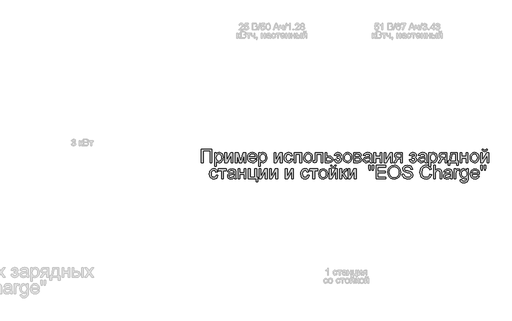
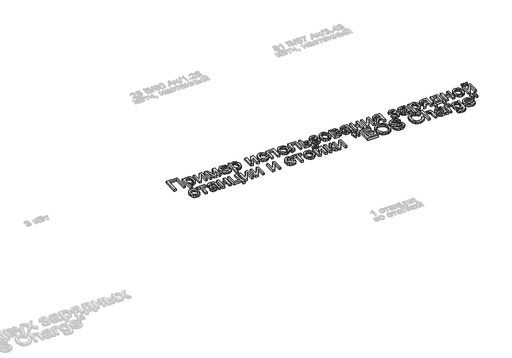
# One storey, part 13 of 26: 1 proxy.
"""IFC4 building model written with IfcOpenShell, lengths in millimetres."""

from ifc_helpers import new_model, si_unit, origin, origin_with_axes, place, context, project, spatial, polyline, outline, extrude, element, save

model = new_model("IFC4")

# Units and contexts
model_context = context("Model", 3, world=origin())
ifc_project = project(units=[si_unit("LENGTHUNIT", "METRE", prefix="MILLI")], contexts=[model_context])

# Site, building, storey
site = spatial("IfcSite", under=ifc_project)
building = spatial("IfcBuilding", under=site)
storey = spatial("IfcBuildingStorey", under=building, Name="Этаж 01", Elevation=0.0)

# Proxy
placement = place(None, origin())
element("IfcBuildingElementProxy", 1, Name="150 мм Arial", ObjectType="150 мм Arial", at=placement, inside=storey, context=model_context, shape_type="SweptSolid", body=[
    extrude(outline(polyline([(13973.0003771, -19691.572075), (14090.7226155, -19691.572075), (14090.7226155, -19842.2565402), (14071.8870574, -19842.2565402), (14071.8870574, -19710.4076332), (13991.8359352, -19710.4076332), (13991.8359352, -19842.2565402), (13973.0003771, -19842.2565402), (13973.0003771, -19691.572075)])), origin_with_axes(), (0.0, 0.0, 1.0), 20.0),
    extrude(outline(polyline([(14121.3303975, -19884.6365461), (14121.3303975, -19731.5976361), (14140.1659557, -19731.5976361), (14140.1659557, -19750.0653122), (14153.1889783, -19734.4487215), (14170.7737377, -19729.2431913), (14183.5116518, -19731.0642072), (14194.6492792, -19736.5272548), (14203.7175704, -19745.3012404), (14210.2474758, -19757.0550701), (14215.5081883, -19786.0809596), (14214.0228648, -19802.1895924), (14209.5668941, -19816.5967711), (14202.2828306, -19828.57133), (14192.3132285, -19837.3821038), (14180.701953, -19842.8037647), (14168.4928693, -19844.610985), (14152.1037264, -19839.7733368), (14140.1659557, -19827.5412604), (14140.1659557, -19884.6365461), (14121.3303975, -19884.6365461)]), holes=[polyline([(14140.1659557, -19787.8100049), (14142.2031022, -19804.6957885), (14148.3145419, -19816.5048006), (14157.3322493, -19823.4577703), (14168.0881991, -19825.7754268), (14179.0188929, -19823.3749968), (14188.2665266, -19816.1737068), (14194.5711043, -19803.9324334), (14196.6726302, -19786.4120534), (14194.621688, -19769.6182403), (14188.4688617, -19757.6436813), (14179.4649498, -19750.4699824), (14168.8607513, -19748.0787495), (14158.2151661, -19750.6217337), (14148.8663649, -19758.2506866), (14142.341058, -19770.7264848), (14140.1659557, -19787.8100049)])]), origin_with_axes(), (0.0, 0.0, 1.0), 20.0),
    extrude(outline(polyline([(14236.6981912, -19731.5976361), (14255.5337494, -19731.5976361), (14255.5337494, -19815.9897658), (14301.8133044, -19731.5976361), (14326.1670925, -19731.5976361), (14326.1670925, -19842.2565402), (14307.3315343, -19842.2565402), (14307.3315343, -19758.3794453), (14261.3462849, -19842.2565402), (14236.6981912, -19842.2565402), (14236.6981912, -19731.5976361)])), origin_with_axes(), (0.0, 0.0, 1.0), 20.0),
    extrude(outline(polyline([(14354.4204297, -19731.5976361), (14386.8308335, -19731.5976361), (14411.8100209, -19820.1836205), (14438.738983, -19731.5976361), (14469.7882234, -19731.5976361), (14469.7882234, -19842.2565402), (14450.9526652, -19842.2565402), (14450.9526652, -19753.155521), (14423.8765504, -19842.2565402), (14399.1548803, -19842.2565402), (14373.2559878, -19748.8880898), (14373.2559878, -19842.2565402), (14354.4204297, -19842.2565402), (14354.4204297, -19731.5976361)])), origin_with_axes(), (0.0, 0.0, 1.0), 20.0),
    extrude(outline(polyline([(14575.5175088, -19809.2943135), (14593.9851849, -19811.6487582), (14587.3311194, -19825.5638947), (14576.7131253, -19835.9657581), (14562.370326, -19842.4496783), (14544.5418448, -19844.610985), (14522.4413339, -19840.8815813), (14505.4359887, -19829.6933701), (14494.5926669, -19811.7729184), (14490.9782263, -19787.8467931), (14494.6294551, -19763.115926), (14505.5831415, -19744.6206587), (14522.3585605, -19733.0875582), (14543.474987, -19729.2431913), (14563.9338245, -19733.0783611), (14580.2815806, -19744.5838705), (14591.0007423, -19763.0423496), (14594.5737961, -19787.7364285), (14594.4634315, -19792.8132001), (14509.8137845, -19792.8132001), (14513.0741386, -19806.9122775), (14520.6479092, -19817.2773528), (14531.578603, -19823.6509083), (14544.9097268, -19825.7754268), (14563.377403, -19821.8390895), (14575.5175088, -19809.2943135)]), holes=[polyline([(14509.8137845, -19773.9776419), (14575.738238, -19773.9776419), (14573.1906552, -19764.0264339), (14568.1966571, -19756.9079173), (14557.2153795, -19750.2860414), (14543.4014106, -19748.0787495), (14530.7048833, -19749.8399845), (14520.2064508, -19755.1236897), (14512.9085917, -19763.3596478), (14509.8137845, -19773.9776419)])]), origin_with_axes(), (0.0, 0.0, 1.0), 20.0),
    extrude(outline(polyline([(14613.4093543, -19884.6365461), (14613.4093543, -19731.5976361), (14632.2449124, -19731.5976361), (14632.2449124, -19750.0653122), (14645.2679351, -19734.4487215), (14662.8526944, -19729.2431913), (14675.5906085, -19731.0642072), (14686.7282359, -19736.5272548), (14695.7965271, -19745.3012404), (14702.3264325, -19757.0550701), (14707.5871451, -19786.0809596), (14706.1018215, -19802.1895924), (14701.6458508, -19816.5967711), (14694.3617873, -19828.57133), (14684.3921853, -19837.3821038), (14672.7809098, -19842.8037647), (14660.5718261, -19844.610985), (14644.1826832, -19839.7733368), (14632.2449124, -19827.5412604), (14632.2449124, -19884.6365461), (14613.4093543, -19884.6365461)]), holes=[polyline([(14632.2449124, -19787.8100049), (14634.282059, -19804.6957885), (14640.3934986, -19816.5048006), (14649.411206, -19823.4577703), (14660.1671559, -19825.7754268), (14671.0978497, -19823.3749968), (14680.3454833, -19816.1737068), (14686.650061, -19803.9324334), (14688.7515869, -19786.4120534), (14686.7006448, -19769.6182403), (14680.5478184, -19757.6436813), (14671.5439066, -19750.4699824), (14660.9397081, -19748.0787495), (14650.2941228, -19750.6217337), (14640.9453216, -19758.2506866), (14634.4200147, -19770.7264848), (14632.2449124, -19787.8100049)])]), origin_with_axes(), (0.0, 0.0, 1.0), 20.0),
    extrude(outline(polyline([(14787.6382672, -19731.5976361), (14806.4738254, -19731.5976361), (14806.4738254, -19815.9897658), (14852.7533804, -19731.5976361), (14877.1071684, -19731.5976361), (14877.1071684, -19842.2565402), (14858.2716103, -19842.2565402), (14858.2716103, -19758.3794453), (14812.2863609, -19842.2565402), (14787.6382672, -19842.2565402), (14787.6382672, -19731.5976361)])), origin_with_axes(), (0.0, 0.0, 1.0), 20.0),
    extrude(outline(polyline([(14975.9938487, -19802.2309791), (14994.8294069, -19804.5854239), (14989.5778914, -19821.3378503), (14979.7094569, -19833.9975894), (14966.1530054, -19841.9576361), (14949.8374389, -19844.610985), (14929.8016657, -19840.9091724), (14914.1344913, -19829.8037347), (14904.0223349, -19811.7821154), (14900.6516161, -19787.3317583), (14902.0909544, -19770.5701349), (14906.4089694, -19756.0433947), (14913.6746388, -19744.3125575), (14923.9569405, -19735.9386436), (14936.2579947, -19730.9170544), (14949.5799215, -19729.2431913), (14965.4954163, -19731.5424538), (14978.2195348, -19738.4402412), (14987.3476068, -19749.5686715), (14992.4749621, -19764.5598628), (14973.639404, -19766.9143076), (14964.9022066, -19752.8060331), (14949.7270743, -19748.0787495), (14937.5547788, -19750.4056031), (14927.8932779, -19757.3861639), (14921.5887002, -19769.3975111), (14919.4871743, -19786.8167235), (14921.5427149, -19804.4704608), (14927.7093369, -19816.5231947), (14937.1960938, -19823.4623688), (14949.2120395, -19825.7754268), (14958.9655109, -19824.33149), (14966.9623458, -19819.9996795), (14972.7794798, -19812.6696308), (14975.9938487, -19802.2309791)])), origin_with_axes(), (0.0, 0.0, 1.0), 20.0),
    extrude(outline(polyline([(15011.3105203, -19731.5976361), (15096.070532, -19731.5976361), (15096.070532, -19842.2565402), (15077.2349738, -19842.2565402), (15077.2349738, -19750.4331942), (15030.1460784, -19750.4331942), (15030.1460784, -19842.2565402), (15011.3105203, -19842.2565402), (15011.3105203, -19731.5976361)])), origin_with_axes(), (0.0, 0.0, 1.0), 20.0),
    extrude(outline(polyline([(15119.6149797, -19786.9270881), (15123.6892728, -19760.2464464), (15135.912152, -19741.4936617), (15151.0137079, -19732.3058089), (15169.095108, -19729.2431913), (15188.8825608, -19732.972595), (15204.687691, -19744.1608062), (15215.0481677, -19761.9249081), (15218.50166, -19785.3819838), (15216.9749497, -19804.41068), (15212.3948188, -19818.8960335), (15204.8946247, -19829.7439539), (15194.6077244, -19837.8603504), (15182.3894436, -19842.9233263), (15169.095108, -19844.610985), (15149.0685319, -19840.8953768), (15133.2817958, -19829.7485524), (15123.0316837, -19811.61197), (15119.6149797, -19786.9270881)]), holes=[polyline([(15138.4505378, -19786.8902999), (15140.6302386, -19803.9370319), (15147.1693411, -19816.0817363), (15157.0101845, -19823.3520042), (15169.095108, -19825.7754268), (15181.1248493, -19823.3382086), (15190.9472985, -19816.026554), (15197.486401, -19803.7209012), (15199.6661018, -19786.3016888), (15197.4726054, -19769.7515975), (15190.8921162, -19757.77244), (15181.0558714, -19750.5021721), (15169.095108, -19748.0787495), (15157.0101845, -19750.4929751), (15147.1693411, -19757.7356518), (15140.6302386, -19769.852765), (15138.4505378, -19786.8902999)])]), origin_with_axes(), (0.0, 0.0, 1.0), 20.0),
    extrude(outline(polyline([(15249.109442, -19731.5976361), (15333.8694536, -19731.5976361), (15333.8694536, -19842.1461756), (15315.0338955, -19842.1461756), (15315.0338955, -19750.4331942), (15267.9450001, -19750.4331942), (15267.9450001, -19803.2242605), (15266.6758072, -19827.5780486), (15259.7044434, -19837.8603504), (15243.22333, -19842.2565402), (15227.919439, -19841.300047), (15227.919439, -19823.4209821), (15236.3439367, -19823.4209821), (15244.8604049, -19822.2621538), (15248.2633134, -19818.5833338), (15249.109442, -19802.1574027), (15249.109442, -19731.5976361)])), origin_with_axes(), (0.0, 0.0, 1.0), 20.0),
    extrude(outline(polyline([(15362.1227909, -19731.5976361), (15380.958349, -19731.5976361), (15380.958349, -19771.6231971), (15402.6633867, -19771.6231971), (15421.4805508, -19773.9822404), (15435.4048843, -19781.0593703), (15444.013323, -19792.2843697), (15446.8828026, -19807.0870215), (15444.4409858, -19820.5652981), (15437.1155356, -19831.9374503), (15424.4190082, -19839.6767677), (15405.8639601, -19842.2565402), (15362.1227909, -19842.2565402), (15362.1227909, -19731.5976361)]), holes=[polyline([(15380.958349, -19823.4209821), (15398.5431084, -19823.4209821), (15421.2598216, -19819.4662506), (15426.3503887, -19814.4032747), (15428.0472444, -19807.1238097), (15423.0256552, -19795.5355268), (15414.9552439, -19791.7279482), (15400.7871886, -19790.4587553), (15380.958349, -19790.4587553), (15380.958349, -19823.4209821)])]), origin_with_axes(), (0.0, 0.0, 1.0), 20.0),
    extrude(outline(polyline([(15496.3261427, -19792.8132001), (15496.3261427, -19773.9776419), (15511.1885753, -19773.2418779), (15518.693368, -19769.3239347), (15522.2250352, -19761.1385603), (15517.4977515, -19751.6288107), (15505.3024634, -19748.0787495), (15492.7025051, -19751.6104166), (15484.5539189, -19762.2054181), (15463.363916, -19759.8509733), (15468.9833134, -19746.4600687), (15477.5273728, -19736.8951368), (15488.996094, -19731.1561777), (15503.389477, -19729.2431913), (15519.1348264, -19731.5746434), (15531.0542031, -19738.5689999), (15538.5589958, -19748.8007179), (15541.0605933, -19760.8442547), (15537.501335, -19772.5429021), (15526.8235601, -19781.5927992), (15539.2763657, -19793.3282349), (15543.4150381, -19810.2140184), (15540.7892804, -19824.0785711), (15532.9120071, -19835.0644472), (15520.3166473, -19842.2243505), (15503.5366298, -19844.610985), (15487.1244943, -19842.403693), (15474.5659227, -19835.7818171), (15465.860915, -19824.7453573), (15461.0094712, -19809.2943135), (15482.1994741, -19806.9398687), (15490.6975482, -19820.8458081), (15505.3392516, -19825.7754268), (15519.0980382, -19821.0481432), (15524.5794799, -19808.9632197), (15521.1765715, -19799.067194), (15513.9292962, -19793.7696933), (15500.0049627, -19792.7028355), (15496.3261427, -19792.8132001)])), origin_with_axes(), (0.0, 0.0, 1.0), 20.0),
    extrude(outline(polyline([(15562.2505963, -19786.9270881), (15566.3248894, -19760.2464464), (15578.5477686, -19741.4936617), (15593.6493245, -19732.3058089), (15611.7307246, -19729.2431913), (15631.5181774, -19732.972595), (15647.3233076, -19744.1608062), (15657.6837843, -19761.9249081), (15661.1372766, -19785.3819838), (15659.6105663, -19804.41068), (15655.0304354, -19818.8960335), (15647.5302413, -19829.7439539), (15637.243341, -19837.8603504), (15625.0250602, -19842.9233263), (15611.7307246, -19844.610985), (15591.7041485, -19840.8953768), (15575.9174124, -19829.7485524), (15565.6673003, -19811.61197), (15562.2505963, -19786.9270881)]), holes=[polyline([(15581.0861544, -19786.8902999), (15583.2658552, -19803.9370319), (15589.8049577, -19816.0817363), (15599.6458011, -19823.3520042), (15611.7307246, -19825.7754268), (15623.7604658, -19823.3382086), (15633.5829151, -19816.026554), (15640.1220176, -19803.7209012), (15642.3017184, -19786.3016888), (15640.108222, -19769.7515975), (15633.5277328, -19757.77244), (15623.691488, -19750.5021721), (15611.7307246, -19748.0787495), (15599.6458011, -19750.4929751), (15589.8049577, -19757.7356518), (15583.2658552, -19769.852765), (15581.0861544, -19786.8902999)])]), origin_with_axes(), (0.0, 0.0, 1.0), 20.0),
    extrude(outline(polyline([(15682.3272795, -19731.5976361), (15723.8243685, -19731.5976361), (15746.5778699, -19734.1176277), (15759.3801634, -19743.3514658), (15764.7328464, -19759.4463031), (15761.4954848, -19772.524508), (15751.746612, -19781.8503166), (15764.4017526, -19792.059042), (15769.4417359, -19809.8093482), (15766.2503596, -19824.1659431), (15758.6627935, -19834.2735009), (15746.6514463, -19840.2607804), (15730.1887271, -19842.2565402), (15682.3272795, -19842.2565402), (15682.3272795, -19731.5976361)]), holes=[polyline([(15701.1628376, -19823.4209821), (15724.2658269, -19823.4209821), (15744.7568541, -19820.0180736), (15748.9966941, -19815.378162), (15750.6061778, -19808.2642439), (15747.3872103, -19799.1959527), (15738.9995008, -19793.9168461), (15722.426417, -19792.8132001), (15701.1628376, -19792.8132001), (15701.1628376, -19823.4209821)]), polyline([(15701.1628376, -19773.9776419), (15719.7776666, -19773.9776419), (15735.1367399, -19773.0211487), (15742.6047444, -19769.195176), (15745.8972882, -19762.2789945), (15744.4533514, -19756.659597), (15740.1215409, -19753.0451564), (15720.3662778, -19750.4331942), (15701.1628376, -19750.4331942), (15701.1628376, -19773.9776419)])]), origin_with_axes(), (0.0, 0.0, 1.0), 20.0),
    extrude(outline(polyline([(15863.6195267, -19828.1298716), (15845.3541856, -19840.8953768), (15825.1758582, -19844.610985), (15809.4351073, -19842.3761019), (15797.8238319, -19835.6714525), (15790.6639285, -19825.4903183), (15788.2772941, -19812.8259806), (15791.8825376, -19797.9267598), (15801.355499, -19787.1110291), (15814.5440685, -19780.9306116), (15830.8412409, -19778.0979203), (15863.5091621, -19771.6231971), (15863.6195267, -19767.4293424), (15862.3227427, -19759.0232388), (15858.4323906, -19753.523403), (15849.7319814, -19749.4399128), (15837.6102696, -19748.0787495), (15818.5539823, -19751.7023871), (15809.467297, -19764.5598628), (15790.6317389, -19762.2054181), (15798.7803251, -19743.8113183), (15815.187862, -19733.0323759), (15840.0382908, -19729.2431913), (15862.8653686, -19732.5909175), (15875.7596325, -19740.9970211), (15881.5353799, -19753.7809204), (15882.4550849, -19770.2620338), (15882.4550849, -19793.6961169), (15883.411578, -19826.4192203), (15887.1639744, -19842.2565402), (15868.3284162, -19842.2565402), (15863.6195267, -19828.1298716)]), holes=[polyline([(15863.6195267, -19790.4587553), (15833.2324739, -19796.2345026), (15817.027272, -19799.2879232), (15809.6880262, -19804.2543301), (15807.1128522, -19811.5016054), (15812.7230527, -19821.6919367), (15829.185772, -19825.7754268), (15848.2420593, -19821.2688724), (15860.5293179, -19810.3611712), (15863.5091621, -19795.7930442), (15863.6195267, -19790.4587553)])]), origin_with_axes(), (0.0, 0.0, 1.0), 20.0),
    extrude(outline(polyline([(15908.3539773, -19731.5976361), (15927.1895355, -19731.5976361), (15927.1895355, -19773.9776419), (15976.6328756, -19773.9776419), (15976.6328756, -19731.5976361), (15995.4684338, -19731.5976361), (15995.4684338, -19842.2565402), (15976.6328756, -19842.2565402), (15976.6328756, -19792.8132001), (15927.1895355, -19792.8132001), (15927.1895355, -19842.2565402), (15908.3539773, -19842.2565402), (15908.3539773, -19731.5976361)])), origin_with_axes(), (0.0, 0.0, 1.0), 20.0),
    extrude(outline(polyline([(16023.721771, -19731.5976361), (16042.5573292, -19731.5976361), (16042.5573292, -19815.9897658), (16088.8368842, -19731.5976361), (16113.1906722, -19731.5976361), (16113.1906722, -19842.2565402), (16094.3551141, -19842.2565402), (16094.3551141, -19758.3794453), (16048.3698647, -19842.2565402), (16023.721771, -19842.2565402), (16023.721771, -19731.5976361)])), origin_with_axes(), (0.0, 0.0, 1.0), 20.0),
    extrude(outline(polyline([(16226.2040212, -19731.5976361), (16226.2040212, -19842.2565402), (16207.368463, -19842.2565402), (16207.368463, -19799.8765344), (16197.1045553, -19799.8765344), (16183.1250395, -19802.2677673), (16169.9916523, -19818.3442105), (16154.9820669, -19842.2565402), (16133.2034528, -19842.2565402), (16152.1125873, -19812.0166402), (16160.4635086, -19801.1641214), (16168.1522423, -19796.3448672), (16155.2763725, -19792.3993328), (16146.2264754, -19784.9037372), (16140.8737924, -19774.9341351), (16139.0895647, -19763.5665815), (16141.5267829, -19750.6723175), (16148.8384376, -19740.4635922), (16160.7670113, -19733.8141251), (16177.0549866, -19731.5976361), (16226.2040212, -19731.5976361)]), holes=[polyline([(16207.368463, -19750.4331942), (16182.5364283, -19750.4331942), (16169.7111423, -19751.5230446), (16162.4316773, -19754.7925959), (16157.9251228, -19765.0013212), (16159.5851903, -19772.1796187), (16164.5653929, -19777.1598212), (16188.0914464, -19781.0409762), (16207.368463, -19781.0409762), (16207.368463, -19750.4331942)])]), origin_with_axes(), (0.0, 0.0, 1.0), 20.0),
    extrude(outline(polyline([(16339.2173701, -19792.8132001), (16339.2173701, -19773.9776419), (16354.0798027, -19773.2418779), (16361.5845954, -19769.3239347), (16365.1162625, -19761.1385603), (16360.3889789, -19751.6288107), (16348.1936908, -19748.0787495), (16335.5937324, -19751.6104166), (16327.4451462, -19762.2054181), (16306.2551433, -19759.8509733), (16311.8745408, -19746.4600687), (16320.4186001, -19736.8951368), (16331.8873213, -19731.1561777), (16346.2807044, -19729.2431913), (16362.0260538, -19731.5746434), (16373.9454304, -19738.5689999), (16381.4502231, -19748.8007179), (16383.9518207, -19760.8442547), (16380.3925624, -19772.5429021), (16369.7147875, -19781.5927992), (16382.167593, -19793.3282349), (16386.3062655, -19810.2140184), (16383.6805077, -19824.0785711), (16375.8032345, -19835.0644472), (16363.2078747, -19842.2243505), (16346.4278572, -19844.610985), (16330.0157217, -19842.403693), (16317.4571501, -19835.7818171), (16308.7521423, -19824.7453573), (16303.9006985, -19809.2943135), (16325.0907015, -19806.9398687), (16333.5887755, -19820.8458081), (16348.230479, -19825.7754268), (16361.9892656, -19821.0481432), (16367.4707073, -19808.9632197), (16364.0677988, -19799.067194), (16356.8205235, -19793.7696933), (16342.89619, -19792.7028355), (16339.2173701, -19792.8132001)])), origin_with_axes(), (0.0, 0.0, 1.0), 20.0),
    extrude(outline(polyline([(16480.4840562, -19828.1298716), (16462.2187152, -19840.8953768), (16442.0403877, -19844.610985), (16426.2996369, -19842.3761019), (16414.6883614, -19835.6714525), (16407.528458, -19825.4903183), (16405.1418236, -19812.8259806), (16408.7470672, -19797.9267598), (16418.2200285, -19787.1110291), (16431.4085981, -19780.9306116), (16447.7057704, -19778.0979203), (16480.3736916, -19771.6231971), (16480.4840562, -19767.4293424), (16479.1872722, -19759.0232388), (16475.2969201, -19753.523403), (16466.5965109, -19749.4399128), (16454.4747992, -19748.0787495), (16435.4185118, -19751.7023871), (16426.3318265, -19764.5598628), (16407.4962684, -19762.2054181), (16415.6448546, -19743.8113183), (16432.0523916, -19733.0323759), (16456.9028203, -19729.2431913), (16479.7298981, -19732.5909175), (16492.6241621, -19740.9970211), (16498.3999094, -19753.7809204), (16499.3196144, -19770.2620338), (16499.3196144, -19793.6961169), (16500.2761076, -19826.4192203), (16504.0285039, -19842.2565402), (16485.1929458, -19842.2565402), (16480.4840562, -19828.1298716)]), holes=[polyline([(16480.4840562, -19790.4587553), (16450.0970034, -19796.2345026), (16433.8918015, -19799.2879232), (16426.5525557, -19804.2543301), (16423.9773818, -19811.5016054), (16429.5875822, -19821.6919367), (16446.0503015, -19825.7754268), (16465.1065888, -19821.2688724), (16477.3938475, -19810.3611712), (16480.3736916, -19795.7930442), (16480.4840562, -19790.4587553)])]), origin_with_axes(), (0.0, 0.0, 1.0), 20.0),
    extrude(outline(polyline([(16525.2185068, -19884.6365461), (16525.2185068, -19731.5976361), (16544.054065, -19731.5976361), (16544.054065, -19750.0653122), (16557.0770876, -19734.4487215), (16574.661847, -19729.2431913), (16587.3997611, -19731.0642072), (16598.5373885, -19736.5272548), (16607.6056796, -19745.3012404), (16614.1355851, -19757.0550701), (16619.3962976, -19786.0809596), (16617.910974, -19802.1895924), (16613.4550034, -19816.5967711), (16606.1709399, -19828.57133), (16596.2013378, -19837.3821038), (16584.5900623, -19842.8037647), (16572.3809786, -19844.610985), (16555.9918357, -19839.7733368), (16544.054065, -19827.5412604), (16544.054065, -19884.6365461), (16525.2185068, -19884.6365461)]), holes=[polyline([(16544.054065, -19787.8100049), (16546.0912115, -19804.6957885), (16552.2026512, -19816.5048006), (16561.2203586, -19823.4577703), (16571.9763084, -19825.7754268), (16582.9070022, -19823.3749968), (16592.1546359, -19816.1737068), (16598.4592135, -19803.9324334), (16600.5607394, -19786.4120534), (16598.5097973, -19769.6182403), (16592.3569709, -19757.6436813), (16583.3530591, -19750.4699824), (16572.7488606, -19748.0787495), (16562.1032754, -19750.6217337), (16552.7544742, -19758.2506866), (16546.2291673, -19770.7264848), (16544.054065, -19787.8100049)])]), origin_with_axes(), (0.0, 0.0, 1.0), 20.0),
    extrude(outline(polyline([(16725.3463122, -19731.5976361), (16725.3463122, -19842.2565402), (16706.5107541, -19842.2565402), (16706.5107541, -19799.8765344), (16696.2468464, -19799.8765344), (16682.2673306, -19802.2677673), (16669.1339433, -19818.3442105), (16654.1243579, -19842.2565402), (16632.3457438, -19842.2565402), (16651.2548784, -19812.0166402), (16659.6057997, -19801.1641214), (16667.2945334, -19796.3448672), (16654.4186635, -19792.3993328), (16645.3687665, -19784.9037372), (16640.0160834, -19774.9341351), (16638.2318557, -19763.5665815), (16640.669074, -19750.6723175), (16647.9807286, -19740.4635922), (16659.9093023, -19733.8141251), (16676.1972777, -19731.5976361), (16725.3463122, -19731.5976361)]), holes=[polyline([(16706.5107541, -19750.4331942), (16681.6787194, -19750.4331942), (16668.8534333, -19751.5230446), (16661.5739683, -19754.7925959), (16657.0674139, -19765.0013212), (16658.7274814, -19772.1796187), (16663.7076839, -19777.1598212), (16687.2337375, -19781.0409762), (16706.5107541, -19781.0409762), (16706.5107541, -19750.4331942)])]), origin_with_axes(), (0.0, 0.0, 1.0), 20.0),
    extrude(outline(polyline([(16770.0807628, -19731.5976361), (16840.7141059, -19731.5976361), (16840.7141059, -19823.4209821), (16854.8407745, -19823.4209821), (16854.8407745, -19872.8643222), (16836.0052164, -19872.8643222), (16836.0052164, -19842.2565402), (16758.308539, -19842.2565402), (16758.308539, -19872.8643222), (16739.4729808, -19872.8643222), (16739.4729808, -19823.4209821), (16751.2452047, -19823.4209821), (16759.8030596, -19807.9561427), (16765.7949376, -19787.4973052), (16770.0807628, -19731.5976361)]), holes=[polyline([(16786.5618762, -19750.4331942), (16782.1472923, -19793.346629), (16772.4352076, -19823.4209821), (16821.8785477, -19823.4209821), (16821.8785477, -19750.4331942), (16786.5618762, -19750.4331942)])]), origin_with_axes(), (0.0, 0.0, 1.0), 20.0),
    extrude(outline(polyline([(16876.0307774, -19731.5976361), (16894.8663356, -19731.5976361), (16894.8663356, -19773.9776419), (16944.3096757, -19773.9776419), (16944.3096757, -19731.5976361), (16963.1452339, -19731.5976361), (16963.1452339, -19842.2565402), (16944.3096757, -19842.2565402), (16944.3096757, -19792.8132001), (16894.8663356, -19792.8132001), (16894.8663356, -19842.2565402), (16876.0307774, -19842.2565402), (16876.0307774, -19731.5976361)])), origin_with_axes(), (0.0, 0.0, 1.0), 20.0),
    extrude(outline(polyline([(16986.6896816, -19786.9270881), (16990.7639747, -19760.2464464), (17002.986854, -19741.4936617), (17018.0884099, -19732.3058089), (17036.1698099, -19729.2431913), (17055.9572627, -19732.972595), (17071.762393, -19744.1608062), (17082.1228697, -19761.9249081), (17085.5763619, -19785.3819838), (17084.0496516, -19804.41068), (17079.4695208, -19818.8960335), (17071.9693266, -19829.7439539), (17061.6824263, -19837.8603504), (17049.4641455, -19842.9233263), (17036.1698099, -19844.610985), (17016.1432338, -19840.8953768), (17000.3564977, -19829.7485524), (16990.1063856, -19811.61197), (16986.6896816, -19786.9270881)]), holes=[polyline([(17005.5252397, -19786.8902999), (17007.7049406, -19803.9370319), (17014.244043, -19816.0817363), (17024.0848864, -19823.3520042), (17036.1698099, -19825.7754268), (17048.1995512, -19823.3382086), (17058.0220004, -19816.026554), (17064.5611029, -19803.7209012), (17066.7408037, -19786.3016888), (17064.5473073, -19769.7515975), (17057.9668181, -19757.77244), (17048.1305733, -19750.5021721), (17036.1698099, -19748.0787495), (17024.0848864, -19750.4929751), (17014.244043, -19757.7356518), (17007.7049406, -19769.852765), (17005.5252397, -19786.8902999)])]), origin_with_axes(), (0.0, 0.0, 1.0), 20.0),
    extrude(outline(polyline([(17106.7663648, -19731.5976361), (17125.601923, -19731.5976361), (17125.601923, -19815.9897658), (17171.881478, -19731.5976361), (17196.235266, -19731.5976361), (17196.235266, -19842.2565402), (17177.3997079, -19842.2565402), (17177.3997079, -19758.3794453), (17131.4144585, -19842.2565402), (17106.7663648, -19842.2565402), (17106.7663648, -19731.5976361)])), origin_with_axes(), (0.0, 0.0, 1.0), 20.0),
    extrude(outline(polyline([(17167.9819288, -19691.572075), (17182.1085974, -19691.572075), (17179.0689724, -19703.6340059), (17172.9667298, -19712.5229546), (17164.0777811, -19717.9997978), (17152.6780378, -19719.8254122), (17140.3080057, -19718.0135934), (17130.7154827, -19712.5781369), (17124.1579861, -19703.7029838), (17120.8930334, -19691.572075), (17135.019702, -19691.572075), (17140.3172028, -19702.1854706), (17150.9857806, -19705.6987436), (17162.6844281, -19702.2958352), (17167.9819288, -19691.572075)])), origin_with_axes(), (0.0, 0.0, 1.0), 20.0),
    extrude(outline(polyline([(14137.8115109, -19985.1932059), (14156.6470691, -19987.5476507), (14151.3955536, -20004.300077), (14141.5271191, -20016.9598162), (14127.9706676, -20024.9198629), (14111.6551011, -20027.5732118), (14091.6193279, -20023.8713992), (14075.9521534, -20012.7659615), (14065.8399971, -19994.7443422), (14062.4692783, -19970.2939851), (14063.9086166, -19953.5323617), (14068.2266315, -19939.0056214), (14075.4923009, -19927.2747843), (14085.7746027, -19918.9008704), (14098.0756569, -19913.8792812), (14111.3975837, -19912.2054181), (14127.3130785, -19914.5046805), (14140.037197, -19921.402468), (14149.165269, -19932.5308983), (14154.2926243, -19947.5220896), (14135.4570662, -19949.8765344), (14126.7198688, -19935.7682599), (14111.5447365, -19931.0409762), (14099.372441, -19933.3678298), (14089.7109401, -19940.3483907), (14083.4063624, -19952.3597378), (14081.3048365, -19969.7789503), (14083.3603771, -19987.4326876), (14089.5269991, -19999.4854214), (14099.013756, -20006.4245956), (14111.0297017, -20008.7376536), (14120.7831731, -20007.2937168), (14128.7800079, -20002.9619063), (14134.597142, -19995.6318575), (14137.8115109, -19985.1932059)])), origin_with_axes(), (0.0, 0.0, 1.0), 20.0),
    extrude(outline(polyline([(14163.7104034, -19914.5598628), (14253.1793046, -19914.5598628), (14253.1793046, -19933.395421), (14217.8626331, -19933.395421), (14217.8626331, -20025.218767), (14199.0270749, -20025.218767), (14199.0270749, -19933.395421), (14163.7104034, -19933.395421), (14163.7104034, -19914.5598628)])), origin_with_axes(), (0.0, 0.0, 1.0), 20.0),
    extrude(outline(polyline([(14340.2937611, -20011.0920984), (14322.02842, -20023.8576036), (14301.8500926, -20027.5732118), (14286.1093417, -20025.3383286), (14274.4980662, -20018.6336793), (14267.3381629, -20008.4525451), (14264.9515285, -19995.7882074), (14268.556772, -19980.8889866), (14278.0297334, -19970.0732559), (14291.2183029, -19963.8928384), (14307.5154753, -19961.060147), (14340.1833965, -19954.5854239), (14340.2937611, -19950.3915692), (14338.996977, -19941.9854656), (14335.1066249, -19936.4856298), (14326.4062158, -19932.4021396), (14314.284504, -19931.0409762), (14295.2282167, -19934.6646139), (14286.1415314, -19947.5220896), (14267.3059732, -19945.1676448), (14275.4545594, -19926.7735451), (14291.8620964, -19915.9946026), (14316.7125252, -19912.2054181), (14339.539603, -19915.5531442), (14352.4338669, -19923.9592478), (14358.2096142, -19936.7431472), (14359.1293192, -19953.2242605), (14359.1293192, -19976.6583436), (14360.0858124, -20009.3814471), (14363.8382088, -20025.218767), (14345.0026506, -20025.218767), (14340.2937611, -20011.0920984)]), holes=[polyline([(14340.2937611, -19973.4209821), (14309.9067083, -19979.1967294), (14293.7015064, -19982.25015), (14286.3622606, -19987.2165569), (14283.7870866, -19994.4638322), (14289.397287, -20004.6541635), (14305.8600063, -20008.7376536), (14324.9162937, -20004.2310992), (14337.2035523, -19993.323398), (14340.1833965, -19978.755271), (14340.2937611, -19973.4209821)])]), origin_with_axes(), (0.0, 0.0, 1.0), 20.0),
    extrude(outline(polyline([(14385.0282117, -19914.5598628), (14403.8637698, -19914.5598628), (14403.8637698, -19956.9398687), (14453.30711, -19956.9398687), (14453.30711, -19914.5598628), (14472.1426681, -19914.5598628), (14472.1426681, -20025.218767), (14453.30711, -20025.218767), (14453.30711, -19975.7754268), (14403.8637698, -19975.7754268), (14403.8637698, -20025.218767), (14385.0282117, -20025.218767), (14385.0282117, -19914.5598628)])), origin_with_axes(), (0.0, 0.0, 1.0), 20.0),
    extrude(outline(polyline([(14500.3960054, -19914.5598628), (14519.2315635, -19914.5598628), (14519.2315635, -20006.3832088), (14573.3837932, -20006.3832088), (14573.3837932, -19914.5598628), (14592.2193514, -19914.5598628), (14592.2193514, -20006.3832088), (14603.9915752, -20006.3832088), (14603.9915752, -20055.826549), (14585.1560171, -20055.826549), (14585.1560171, -20025.218767), (14500.3960054, -20025.218767), (14500.3960054, -19914.5598628)])), origin_with_axes(), (0.0, 0.0, 1.0), 20.0),
    extrude(outline(polyline([(14620.4726886, -19914.5598628), (14639.3082468, -19914.5598628), (14639.3082468, -19998.9519925), (14685.5878017, -19914.5598628), (14709.9415898, -19914.5598628), (14709.9415898, -20025.218767), (14691.1060317, -20025.218767), (14691.1060317, -19941.3416721), (14645.1207823, -20025.218767), (14620.4726886, -20025.218767), (14620.4726886, -19914.5598628)])), origin_with_axes(), (0.0, 0.0, 1.0), 20.0),
    extrude(outline(polyline([(14738.1949271, -19914.5598628), (14757.0304852, -19914.5598628), (14757.0304852, -19998.9519925), (14803.3100402, -19914.5598628), (14827.6638283, -19914.5598628), (14827.6638283, -20025.218767), (14808.8282701, -20025.218767), (14808.8282701, -19941.3416721), (14762.8430207, -20025.218767), (14738.1949271, -20025.218767), (14738.1949271, -19914.5598628)])), origin_with_axes(), (0.0, 0.0, 1.0), 20.0),
    extrude(outline(polyline([(14914.7782847, -19914.5598628), (14933.6138429, -19914.5598628), (14933.6138429, -19998.9519925), (14979.8933979, -19914.5598628), (15004.247186, -19914.5598628), (15004.247186, -20025.218767), (14985.4116278, -20025.218767), (14985.4116278, -19941.3416721), (14939.4263784, -20025.218767), (14914.7782847, -20025.218767), (14914.7782847, -19914.5598628)])), origin_with_axes(), (0.0, 0.0, 1.0), 20.0),
    extrude(outline(polyline([(15161.9949855, -19985.1932059), (15180.8305437, -19987.5476507), (15175.5790282, -20004.300077), (15165.7105937, -20016.9598162), (15152.1541421, -20024.9198629), (15135.8385756, -20027.5732118), (15115.8028025, -20023.8713992), (15100.135628, -20012.7659615), (15090.0234717, -19994.7443422), (15086.6527529, -19970.2939851), (15088.0920912, -19953.5323617), (15092.4101061, -19939.0056214), (15099.6757755, -19927.2747843), (15109.9580773, -19918.9008704), (15122.2591315, -19913.8792812), (15135.5810582, -19912.2054181), (15151.4965531, -19914.5046805), (15164.2206716, -19921.402468), (15173.3487436, -19932.5308983), (15178.4760989, -19947.5220896), (15159.6405407, -19949.8765344), (15150.9033433, -19935.7682599), (15135.728211, -19931.0409762), (15123.5559155, -19933.3678298), (15113.8944146, -19940.3483907), (15107.5898369, -19952.3597378), (15105.488311, -19969.7789503), (15107.5438517, -19987.4326876), (15113.7104736, -19999.4854214), (15123.1972306, -20006.4245956), (15135.2131763, -20008.7376536), (15144.9666477, -20007.2937168), (15152.9634825, -20002.9619063), (15158.7806166, -19995.6318575), (15161.9949855, -19985.1932059)])), origin_with_axes(), (0.0, 0.0, 1.0), 20.0),
    extrude(outline(polyline([(15187.893878, -19914.5598628), (15277.3627792, -19914.5598628), (15277.3627792, -19933.395421), (15242.0461077, -19933.395421), (15242.0461077, -20025.218767), (15223.2105495, -20025.218767), (15223.2105495, -19933.395421), (15187.893878, -19933.395421), (15187.893878, -19914.5598628)])), origin_with_axes(), (0.0, 0.0, 1.0), 20.0),
    extrude(outline(polyline([(15289.135003, -19969.8893149), (15293.2092961, -19943.2086732), (15305.4321754, -19924.4558885), (15320.5337313, -19915.2680357), (15338.6151314, -19912.2054181), (15358.4025842, -19915.9348218), (15374.2077144, -19927.123033), (15384.5681911, -19944.8871348), (15388.0216833, -19968.3442105), (15386.4949731, -19987.3729067), (15381.9148422, -20001.8582603), (15374.414648, -20012.7061806), (15364.1277478, -20020.8225771), (15351.909467, -20025.8855531), (15338.6151314, -20027.5732118), (15318.5885553, -20023.8576036), (15302.8018192, -20012.7107792), (15292.5517071, -19994.5741968), (15289.135003, -19969.8893149)]), holes=[polyline([(15307.9705612, -19969.8525267), (15310.150262, -19986.8992587), (15316.6893645, -19999.043963), (15326.5302078, -20006.314231), (15338.6151314, -20008.7376536), (15350.6448726, -20006.3004354), (15360.4673219, -19998.9887807), (15367.0064244, -19986.683128), (15369.1861252, -19969.2639155), (15366.9926288, -19952.7138243), (15360.4121396, -19940.7346668), (15350.5758948, -19933.4643989), (15338.6151314, -19931.0409762), (15326.5302078, -19933.4552018), (15316.6893645, -19940.6978786), (15310.150262, -19952.8149918), (15307.9705612, -19969.8525267)])]), origin_with_axes(), (0.0, 0.0, 1.0), 20.0),
    extrude(outline(polyline([(15409.2116863, -19914.5598628), (15428.0472444, -19914.5598628), (15428.0472444, -19998.9519925), (15474.3267994, -19914.5598628), (15498.6805875, -19914.5598628), (15498.6805875, -20025.218767), (15479.8450293, -20025.218767), (15479.8450293, -19941.3416721), (15433.8597799, -20025.218767), (15409.2116863, -20025.218767), (15409.2116863, -19914.5598628)])), origin_with_axes(), (0.0, 0.0, 1.0), 20.0),
    extrude(outline(polyline([(15470.4272503, -19874.5343018), (15484.5539189, -19874.5343018), (15481.5142939, -19886.5962327), (15475.4120513, -19895.4851814), (15466.5231026, -19900.9620246), (15455.1233593, -19902.787639), (15442.7533272, -19900.9758202), (15433.1608041, -19895.5403637), (15426.6033076, -19886.6652106), (15423.3383549, -19874.5343018), (15437.4650235, -19874.5343018), (15442.7625242, -19885.1476973), (15453.4311021, -19888.6609704), (15465.1297495, -19885.2580619), (15470.4272503, -19874.5343018)])), origin_with_axes(), (0.0, 0.0, 1.0), 20.0),
    extrude(outline(polyline([(15526.9339247, -19914.5598628), (15545.7694829, -19914.5598628), (15545.7694829, -19961.6487582), (15558.3878353, -19958.2642439), (15568.7253194, -19938.5457689), (15577.315364, -19921.5312266), (15584.8937331, -19915.9946026), (15598.6709138, -19914.5598628), (15602.2761573, -19914.5598628), (15602.2761573, -19933.5057856), (15597.1993858, -19933.395421), (15588.0023359, -19935.3819838), (15581.5276128, -19947.779607), (15573.9308496, -19961.1889057), (15563.2806658, -19967.7555993), (15575.1632543, -19975.0856481), (15586.8251135, -19990.5274948), (15606.9850469, -20025.218767), (15585.5743147, -20025.218767), (15565.8190516, -19991.2632588), (15555.8862377, -19976.8974669), (15545.7694829, -19973.4209821), (15545.7694829, -20025.218767), (15526.9339247, -20025.218767), (15526.9339247, -19914.5598628)])), origin_with_axes(), (0.0, 0.0, 1.0), 20.0),
    extrude(outline(polyline([(15618.7572707, -19914.5598628), (15637.5928289, -19914.5598628), (15637.5928289, -19998.9519925), (15683.8723839, -19914.5598628), (15708.2261719, -19914.5598628), (15708.2261719, -20025.218767), (15689.3906138, -20025.218767), (15689.3906138, -19941.3416721), (15643.4053644, -20025.218767), (15618.7572707, -20025.218767), (15618.7572707, -19914.5598628)])), origin_with_axes(), (0.0, 0.0, 1.0), 20.0),
    extrude(outline(polyline([(15854.091383, -19928.6865315), (15849.4928581, -19899.5870656), (15849.4928581, -19874.5343018), (15868.3284162, -19874.5343018), (15868.3284162, -19899.5870656), (15864.2081379, -19928.6865315), (15854.091383, -19928.6865315)])), origin_with_axes(), (0.0, 0.0, 1.0), 20.0),
    extrude(outline(polyline([(15891.6521347, -19928.6865315), (15887.1639744, -19899.5870656), (15887.1639744, -19874.5343018), (15905.9995325, -19874.5343018), (15905.9995325, -19899.5870656), (15901.5849486, -19928.6865315), (15891.6521347, -19928.6865315)])), origin_with_axes(), (0.0, 0.0, 1.0), 20.0),
    extrude(outline(polyline([(15931.898425, -20025.218767), (15931.898425, -19874.5343018), (16040.2028844, -19874.5343018), (16040.2028844, -19893.3698599), (15950.7339832, -19893.3698599), (15950.7339832, -19938.1043105), (16035.4939949, -19938.1043105), (16035.4939949, -19956.9398687), (15950.7339832, -19956.9398687), (15950.7339832, -20006.3832088), (16042.5573292, -20006.3832088), (16042.5573292, -20025.218767), (15931.898425, -20025.218767)])), origin_with_axes(), (0.0, 0.0, 1.0), 20.0),
    extrude(outline(polyline([(16063.7473321, -19951.8630972), (16068.7689213, -19918.5421854), (16075.0459079, -19904.9236538), (16083.833689, -19893.3330717), (16106.8355108, -19877.4681607), (16135.6682621, -19872.179857), (16155.4327223, -19874.6630605), (16173.1554374, -19882.1126709), (16187.8707173, -19894.0044564), (16198.6128715, -19909.8141851), (16205.1795651, -19928.778502), (16207.368463, -19950.1340518), (16205.064602, -19971.7747101), (16198.153019, -19991.0057414), (16187.0153916, -20006.8430613), (16172.0333974, -20018.3025855), (16154.4624336, -20025.2555552), (16135.5578975, -20027.5732118), (16115.4899347, -20025.0118334), (16097.666052, -20017.3276982), (16082.9875604, -20005.2151835), (16072.3557708, -19989.3686666), (16065.8994418, -19971.1355152), (16063.7473321, -19951.8630972)]), holes=[polyline([(16082.5828902, -19952.0470381), (16086.3490822, -19975.619077), (16097.6476579, -19993.5809154), (16114.6300105, -20004.9484691), (16135.4475329, -20008.7376536), (16156.568558, -20004.9116809), (16173.5785017, -19993.4337626), (16184.7943041, -19974.9201012), (16188.5329048, -19949.986899), (16186.9326182, -19933.3126475), (16182.1317581, -19918.9008704), (16174.2544849, -19907.114851), (16163.4249587, -19898.3178728), (16150.3605493, -19892.8410296), (16135.7786267, -19891.0154152), (16115.5175259, -19894.5332867), (16098.2914514, -19905.0869015), (16086.5100305, -19923.8626788), (16082.5828902, -19952.0470381)])]), origin_with_axes(), (0.0, 0.0, 1.0), 20.0),
    extrude(outline(polyline([(16226.2040212, -19973.4209821), (16245.0395793, -19973.4209821), (16251.1096322, -19992.2749343), (16265.9352766, -20004.194311), (16288.5232311, -20008.7376536), (16308.2049179, -20005.297957), (16320.9152408, -19995.8433897), (16325.0907015, -19983.2066431), (16321.9637045, -19971.4528134), (16309.1614111, -19962.899557), (16281.7358083, -19955.707464), (16252.2132782, -19946.4184436), (16236.1920173, -19932.4021396), (16230.9129107, -19913.6769461), (16232.545387, -19902.6450847), (16237.4428161, -19892.3581844), (16245.4764392, -19883.6393811), (16256.5174976, -19877.3118108), (16284.439741, -19872.179857), (16314.2381826, -19877.5509341), (16325.6609185, -19884.1820071), (16334.1038103, -19893.3330717), (16339.4472963, -19904.4339109), (16341.5718148, -19916.9143076), (16322.7362567, -19916.9143076), (16319.2781659, -19905.6755127), (16312.0676788, -19897.5637147), (16300.8012927, -19892.65249), (16285.175505, -19891.0154152), (16269.1818352, -19892.6340959), (16258.2097547, -19897.4901383), (16251.8637903, -19904.636246), (16249.7484688, -19913.1251231), (16251.247588, -19920.3632013), (16255.7449454, -19926.1849339), (16286.4998802, -19936.706359), (16319.8299889, -19946.1609262), (16330.5675447, -19952.9943343), (16338.0585418, -19961.428029), (16342.4593302, -19971.3700399), (16343.9262596, -19982.7283965), (16342.238601, -19994.339672), (16337.175625, -20005.2611688), (16328.9442654, -20014.6605537), (16317.7514556, -20021.7054939), (16304.2915732, -20026.1062823), (16289.2589951, -20027.5732118), (16270.8051145, -20025.9913192), (16255.6161867, -20021.2456414), (16243.5174675, -20013.3177844), (16234.3342132, -20002.1893541), (16228.4389043, -19988.6329026), (16226.2040212, -19973.4209821)])), origin_with_axes(), (0.0, 0.0, 1.0), 20.0),
    extrude(outline(polyline([(16536.9907307, -19971.6551485), (16555.8262888, -19976.5111908), (16547.1350767, -19998.4599504), (16533.4958517, -20014.4950068), (16515.5799986, -20024.3036605), (16494.0589018, -20027.5732118), (16472.2113098, -20025.0992053), (16454.8610753, -20017.6771861), (16441.5621411, -20005.5646714), (16431.8684506, -19989.0191787), (16425.950149, -19969.5674182), (16423.9773818, -19948.7361002), (16426.2076664, -19926.764348), (16432.8985201, -19907.7908341), (16443.7004552, -19892.4179653), (16458.2639837, -19881.2481482), (16475.5360434, -19874.4469298), (16494.463572, -19872.179857), (16515.1155475, -19875.1137159), (16532.1898706, -19883.9152926), (16545.1531124, -19898.0419613), (16553.4718441, -19916.9510958), (16534.6362859, -19921.4392562), (16528.1063805, -19907.7034622), (16519.1852421, -19898.2810846), (16507.7625062, -19892.8318325), (16493.727808, -19891.0154152), (16477.5501973, -19893.0295691), (16464.2604602, -19899.0720308), (16454.175895, -19908.508204), (16447.6137999, -19920.7034922), (16442.8129399, -19948.699312), (16444.2338841, -19966.1001304), (16448.4967167, -19981.146504), (16455.7623861, -19993.2636172), (16466.1918407, -20001.8766544), (16478.69523, -20007.0224038), (16492.1827037, -20008.7376536), (16507.9050604, -20006.4016029), (16521.006258, -19999.3934509), (16530.8976851, -19987.786774), (16536.9907307, -19971.6551485)])), origin_with_axes(), (0.0, 0.0, 1.0), 20.0),
    extrude(outline(polyline([(16579.3707365, -20025.218767), (16579.3707365, -19874.5343018), (16598.2062947, -19874.5343018), (16598.2062947, -19929.9373302), (16612.8939833, -19916.6383961), (16630.9845804, -19912.2054181), (16652.1377952, -19917.0430663), (16664.9768768, -19930.4155768), (16668.8396377, -19955.1740351), (16668.8396377, -20025.218767), (16650.0040796, -20025.218767), (16650.0040796, -19957.1238097), (16648.5049605, -19945.3331917), (16644.0076031, -19937.2581819), (16636.7603278, -19932.5952777), (16627.0114549, -19931.0409762), (16611.5788052, -19935.234831), (16601.2781093, -19946.6023846), (16598.2062947, -19966.4312242), (16598.2062947, -20025.218767), (16579.3707365, -20025.218767)])), origin_with_axes(), (0.0, 0.0, 1.0), 20.0),
    extrude(outline(polyline([(16765.3718733, -20011.0920984), (16747.1065322, -20023.8576036), (16726.9282048, -20027.5732118), (16711.1874539, -20025.3383286), (16699.5761784, -20018.6336793), (16692.4162751, -20008.4525451), (16690.0296407, -19995.7882074), (16693.6348842, -19980.8889866), (16703.1078456, -19970.0732559), (16716.2964151, -19963.8928384), (16732.5935875, -19961.060147), (16765.2615087, -19954.5854239), (16765.3718733, -19950.3915692), (16764.0750892, -19941.9854656), (16760.1847371, -19936.4856298), (16751.484328, -19932.4021396), (16739.3626162, -19931.0409762), (16720.3063289, -19934.6646139), (16711.2196436, -19947.5220896), (16692.3840854, -19945.1676448), (16700.5326716, -19926.7735451), (16716.9402086, -19915.9946026), (16741.7906374, -19912.2054181), (16764.6177152, -19915.5531442), (16777.5119791, -19923.9592478), (16783.2877264, -19936.7431472), (16784.2074314, -19953.2242605), (16784.2074314, -19976.6583436), (16785.1639246, -20009.3814471), (16788.916321, -20025.218767), (16770.0807628, -20025.218767), (16765.3718733, -20011.0920984)]), holes=[polyline([(16765.3718733, -19973.4209821), (16734.9848205, -19979.1967294), (16718.7796186, -19982.25015), (16711.4403728, -19987.2165569), (16708.8651988, -19994.4638322), (16714.4753992, -20004.6541635), (16730.9381185, -20008.7376536), (16749.9944059, -20004.2310992), (16762.2816645, -19993.323398), (16765.2615087, -19978.755271), (16765.3718733, -19973.4209821)])]), origin_with_axes(), (0.0, 0.0, 1.0), 20.0),
    extrude(outline(polyline([(16810.1063239, -20025.218767), (16810.1063239, -19914.5598628), (16826.5874373, -19914.5598628), (16826.5874373, -19930.9306116), (16838.2860847, -19915.8474498), (16850.0583086, -19912.2054181), (16868.9674431, -19918.0179536), (16862.676661, -19934.9037372), (16849.4329092, -19931.0409762), (16838.7827254, -19934.7565844), (16831.9953026, -19945.0572802), (16828.941882, -19967.0566236), (16828.941882, -20025.218767), (16810.1063239, -20025.218767)])), origin_with_axes(), (0.0, 0.0, 1.0), 20.0),
    extrude(outline(polyline([(16876.0307774, -20034.6365461), (16894.8663356, -20036.9909908), (16900.9731767, -20046.9238047), (16919.2569119, -20051.1176595), (16938.5339284, -20046.3719817), (16947.7309783, -20033.0546535), (16949.0185653, -20011.0920984), (16935.7564193, -20021.6870998), (16919.5880057, -20025.218767), (16900.1684348, -20021.1076857), (16885.6876798, -20008.7744418), (16876.6791694, -19990.6930417), (16873.6763327, -19969.3374919), (16879.0658039, -19940.1460556), (16885.6600887, -19928.2956568), (16894.6640005, -19919.4894816), (16905.7694382, -19914.0264339), (16918.6683007, -19912.2054181), (16935.4713108, -19916.3256964), (16949.0185653, -19928.6865315), (16949.0185653, -19914.5598628), (16967.8541234, -19914.5598628), (16967.8541234, -20010.098817), (16966.5665364, -20032.1579411), (16962.7037755, -20046.6846814), (16956.0497099, -20056.3185912), (16946.388209, -20063.6992237), (16933.9308049, -20068.3897191), (16918.8890299, -20069.9532176), (16901.3640513, -20067.7505242), (16887.563878, -20061.1424438), (16878.7117175, -20050.1105825), (16876.0307774, -20034.6365461)]), holes=[polyline([(16892.5118908, -19968.0499049), (16894.5214462, -19985.3265631), (16900.5501124, -19997.2045531), (16909.6138051, -20004.0885449), (16920.7284398, -20006.3832088), (16931.7603012, -20004.1023405), (16940.8699791, -19997.2597354), (16946.9814187, -19985.5334968), (16949.0185653, -19968.6017279), (16946.9216379, -19952.2723659), (16940.6308558, -19940.5139376), (16931.3878207, -19933.4092166), (16920.4341342, -19931.0409762), (16909.6781844, -19933.3724284), (16900.660477, -19940.3667848), (16894.5490374, -19951.9504691), (16892.5118908, -19968.0499049)])]), origin_with_axes(), (0.0, 0.0, 1.0), 20.0),
    extrude(outline(polyline([(17073.5834088, -19992.2565402), (17092.051085, -19994.610985), (17085.3970194, -20008.5261215), (17074.7790253, -20018.9279849), (17060.436226, -20025.411905), (17042.6077448, -20027.5732118), (17020.507234, -20023.843808), (17003.5018888, -20012.6555969), (16992.658567, -19994.7351452), (16989.0441263, -19970.8090199), (16992.6953552, -19946.0781528), (17003.6490416, -19927.5828855), (17020.4244605, -19916.0497849), (17041.5408871, -19912.2054181), (17061.9997245, -19916.0405879), (17078.3474807, -19927.5460973), (17089.0666423, -19946.0045764), (17092.6396962, -19970.6986553), (17092.5293316, -19975.7754268), (17007.8796845, -19975.7754268), (17011.1400387, -19989.8745043), (17018.7138093, -20000.2395795), (17029.644503, -20006.6131351), (17042.9756268, -20008.7376536), (17061.443303, -20004.8013163), (17073.5834088, -19992.2565402)]), holes=[polyline([(17007.8796845, -19956.9398687), (17073.804138, -19956.9398687), (17071.2565552, -19946.9886607), (17066.2625571, -19939.8701441), (17055.2812796, -19933.2482682), (17041.4673107, -19931.0409762), (17028.7707833, -19932.8022113), (17018.2723509, -19938.0859164), (17010.9744918, -19946.3218746), (17007.8796845, -19956.9398687)])]), origin_with_axes(), (0.0, 0.0, 1.0), 20.0),
    extrude(outline(polyline([(17111.3648897, -19928.6865315), (17106.7663648, -19899.5870656), (17106.7663648, -19874.5343018), (17125.601923, -19874.5343018), (17125.601923, -19899.5870656), (17121.4816446, -19928.6865315), (17111.3648897, -19928.6865315)])), origin_with_axes(), (0.0, 0.0, 1.0), 20.0),
    extrude(outline(polyline([(17148.9256415, -19928.6865315), (17144.4374811, -19899.5870656), (17144.4374811, -19874.5343018), (17163.2730393, -19874.5343018), (17163.2730393, -19899.5870656), (17158.8584553, -19928.6865315), (17148.9256415, -19928.6865315)])), origin_with_axes(), (0.0, 0.0, 1.0), 20.0),
])

save(model, "model.ifc")
